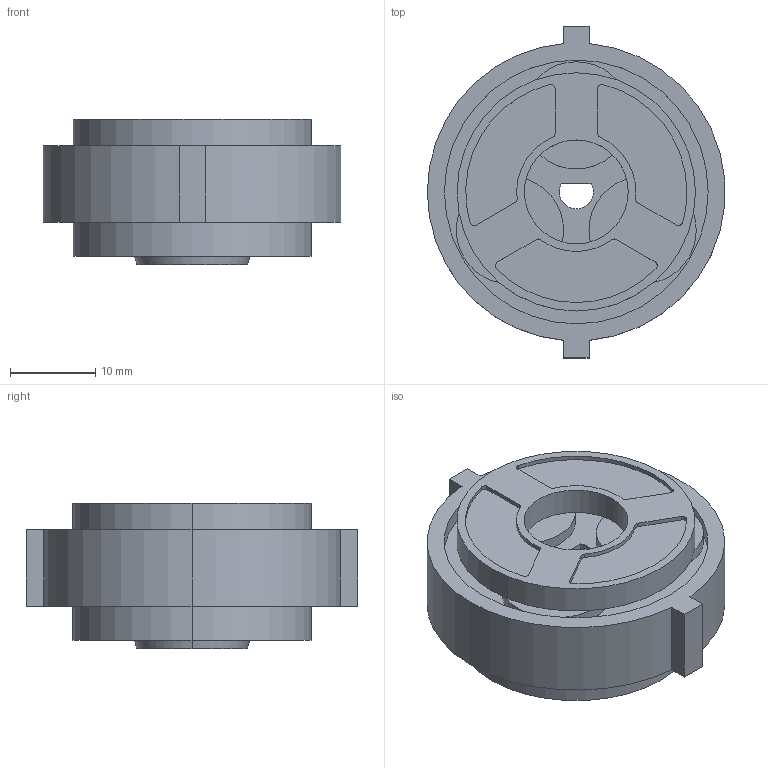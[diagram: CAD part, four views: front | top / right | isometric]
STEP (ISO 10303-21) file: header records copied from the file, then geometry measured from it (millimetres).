
FILE_DESCRIPTION (( 'STEP AP203' ), '1' );
FILE_NAME ('LGU35-5SRS.step', '2021-07-23T02:23:34', ( '' ), ( '' ), 'SwSTEP 2.0', 'SolidWorks 2021', '' );
FILE_SCHEMA (( 'CONFIG_CONTROL_DESIGN' ));
Length unit declared in the file: millimetre
Products named in the file (1): LGU35-5SRS
Bounding box: 34.93 x 39 x 17.1 mm (x, y, z)
Volume: 10827.7 mm3; surface area: 6915.2 mm2
Topology: 1 solids, 1 shells, 262 faces, 732 edges, 488 vertices
Faces by surface type: cylinder 190, plane 64, bspline 6, cone 2
Entity records: 8841 total; most frequent: CARTESIAN_POINT 1681, DIRECTION 1612, ORIENTED_EDGE 1464, EDGE_CURVE 732, AXIS2_PLACEMENT_3D 647, VERTEX_POINT 488, CIRCLE 390, VECTOR 318
